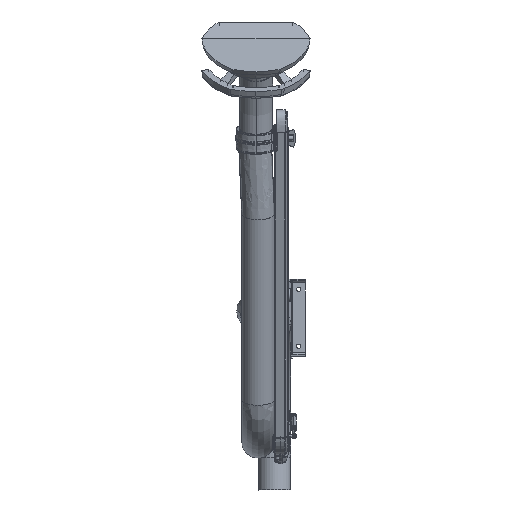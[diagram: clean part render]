
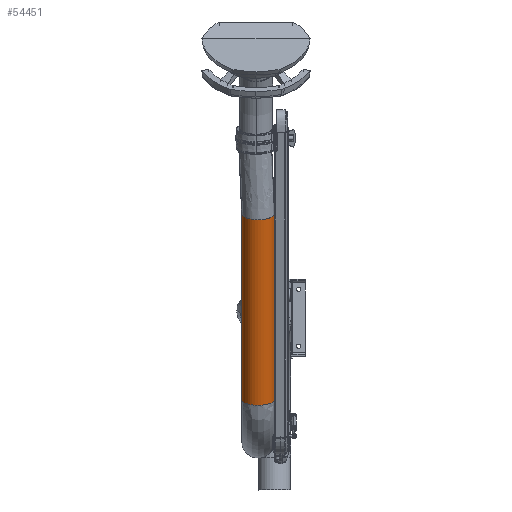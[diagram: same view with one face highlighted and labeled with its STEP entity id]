
A CAD part, front view. The second image highlights one B-rep face of the part: STEP entity #54451.
In plain terms, the highlighted free-form (B-spline) face has degree [3, 3] with [7, 6] control points.
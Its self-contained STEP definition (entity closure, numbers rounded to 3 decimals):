
#52660=CARTESIAN_POINT('',(-100.,0.,-275.));
#52661=CARTESIAN_POINT('',(-100.,0.,-341.667));
#52662=CARTESIAN_POINT('',(-100.,0.,-475.));
#52663=CARTESIAN_POINT('',(-100.,0.,-675.));
#52664=CARTESIAN_POINT('',(-100.,0.,-808.333));
#52665=CARTESIAN_POINT('',(-100.,0.,-875.));
#52670=CARTESIAN_POINT('',(-50.,0.,-275.));
#52671=DIRECTION('',(0.,0.,-1.));
#52672=DIRECTION('',(1.,0.,0.));
#52673=AXIS2_PLACEMENT_3D('',#52670,#52671,#52672);
#52678=CARTESIAN_POINT('',(0.,0.,-275.));
#52679=CARTESIAN_POINT('',(0.,0.,-341.667));
#52680=CARTESIAN_POINT('',(0.,0.,-475.));
#52681=CARTESIAN_POINT('',(0.,0.,-675.));
#52682=CARTESIAN_POINT('',(0.,0.,-808.333));
#52683=CARTESIAN_POINT('',(0.,0.,-875.));
#52688=CARTESIAN_POINT('',(-50.,0.,-875.));
#52689=DIRECTION('',(0.,0.,-1.));
#52690=DIRECTION('',(1.,0.,0.));
#52691=AXIS2_PLACEMENT_3D('',#52688,#52689,#52690);
#54102=CARTESIAN_POINT('',(0.,0.,-275.));
#54103=CARTESIAN_POINT('',(-100.,0.,-275.));
#54104=VERTEX_POINT('',#54102);
#54105=VERTEX_POINT('',#54103);
#54110=CARTESIAN_POINT('',(0.,0.,-875.));
#54111=CARTESIAN_POINT('',(-100.,0.,-875.));
#54112=VERTEX_POINT('',#54110);
#54113=VERTEX_POINT('',#54111);
#54401=CARTESIAN_POINT('',(-0.099,3.14,-263.));
#54402=CARTESIAN_POINT('',(-0.099,3.14,-267.));
#54403=CARTESIAN_POINT('',(-0.099,3.14,-471.));
#54404=CARTESIAN_POINT('',(-0.099,3.14,-679.));
#54405=CARTESIAN_POINT('',(-0.099,3.14,-883.));
#54406=CARTESIAN_POINT('',(-0.099,3.14,-887.));
#54407=CARTESIAN_POINT('',(1.833,-27.57,-263.));
#54408=CARTESIAN_POINT('',(1.833,-27.57,-267.));
#54409=CARTESIAN_POINT('',(1.833,-27.57,-471.));
#54410=CARTESIAN_POINT('',(1.833,-27.57,-679.));
#54411=CARTESIAN_POINT('',(1.833,-27.57,-883.));
#54412=CARTESIAN_POINT('',(1.833,-27.57,-887.));
#54413=CARTESIAN_POINT('',(-19.23,-50.,-263.));
#54414=CARTESIAN_POINT('',(-19.23,-50.,-267.));
#54415=CARTESIAN_POINT('',(-19.23,-50.,-471.));
#54416=CARTESIAN_POINT('',(-19.23,-50.,-679.));
#54417=CARTESIAN_POINT('',(-19.23,-50.,-883.));
#54418=CARTESIAN_POINT('',(-19.23,-50.,-887.));
#54419=CARTESIAN_POINT('',(-50.,-50.,-263.));
#54420=CARTESIAN_POINT('',(-50.,-50.,-267.));
#54421=CARTESIAN_POINT('',(-50.,-50.,-471.));
#54422=CARTESIAN_POINT('',(-50.,-50.,-679.));
#54423=CARTESIAN_POINT('',(-50.,-50.,-883.));
#54424=CARTESIAN_POINT('',(-50.,-50.,-887.));
#54425=CARTESIAN_POINT('',(-80.77,-50.,-263.));
#54426=CARTESIAN_POINT('',(-80.77,-50.,-267.));
#54427=CARTESIAN_POINT('',(-80.77,-50.,-471.));
#54428=CARTESIAN_POINT('',(-80.77,-50.,-679.));
#54429=CARTESIAN_POINT('',(-80.77,-50.,-883.));
#54430=CARTESIAN_POINT('',(-80.77,-50.,-887.));
#54431=CARTESIAN_POINT('',(-101.833,-27.57,-263.));
#54432=CARTESIAN_POINT('',(-101.833,-27.57,-267.));
#54433=CARTESIAN_POINT('',(-101.833,-27.57,-471.));
#54434=CARTESIAN_POINT('',(-101.833,-27.57,-679.));
#54435=CARTESIAN_POINT('',(-101.833,-27.57,-883.));
#54436=CARTESIAN_POINT('',(-101.833,-27.57,-887.));
#54437=CARTESIAN_POINT('',(-99.901,3.14,-263.));
#54438=CARTESIAN_POINT('',(-99.901,3.14,-267.));
#54439=CARTESIAN_POINT('',(-99.901,3.14,-471.));
#54440=CARTESIAN_POINT('',(-99.901,3.14,-679.));
#54441=CARTESIAN_POINT('',(-99.901,3.14,-883.));
#54442=CARTESIAN_POINT('',(-99.901,3.14,-887.));
#54443=(BOUNDED_SURFACE()B_SPLINE_SURFACE(3,3,((#54401,#54402,#54403,#54404,
#54405,#54406),(#54407,#54408,#54409,#54410,#54411,#54412),(#54413,#54414,
#54415,#54416,#54417,#54418),(#54419,#54420,#54421,#54422,#54423,#54424),
(#54425,#54426,#54427,#54428,#54429,#54430),(#54431,#54432,#54433,#54434,#54435,
#54436),(#54437,#54438,#54439,#54440,#54441,#54442)),.UNSPECIFIED.,.F.,.F.,.F.)B_SPLINE_SURFACE_WITH_KNOTS((4,3,4),(4,1,1,4),(0.,1.,2.),(-0.02,0.,1.,
1.02),.UNSPECIFIED.)GEOMETRIC_REPRESENTATION_ITEM()RATIONAL_B_SPLINE_SURFACE((
(1.187,1.187,1.187,1.187,
1.187,1.187),(0.938,0.938,
0.938,0.938,0.938,0.938),(
0.938,0.938,0.938,0.938,
0.938,0.938),(1.187,1.187,
1.187,1.187,1.187,1.187),(
0.938,0.938,0.938,0.938,
0.938,0.938),(0.938,0.938,
0.938,0.938,0.938,0.938),(
1.187,1.187,1.187,1.187,
1.187,1.187)))REPRESENTATION_ITEM('')SURFACE());
#54444=ORIENTED_EDGE('',*,*,#54255,.F.);
#54445=ORIENTED_EDGE('',*,*,#54389,.T.);
#54447=ORIENTED_EDGE('',*,*,#54446,.T.);
#54448=ORIENTED_EDGE('',*,*,#54385,.F.);
#54449=EDGE_LOOP('',(#54444,#54445,#54447,#54448));
#54450=FACE_OUTER_BOUND('',#54449,.F.);
#52666=B_SPLINE_CURVE_WITH_KNOTS('',3,(#52660,#52661,#52662,#52663,#52664,
#52665),.UNSPECIFIED.,.F.,.F.,(4,1,1,4),(0.,0.333,
0.667,1.),.UNSPECIFIED.);
#52674=CIRCLE('',#52673,50.);
#52684=B_SPLINE_CURVE_WITH_KNOTS('',3,(#52678,#52679,#52680,#52681,#52682,
#52683),.UNSPECIFIED.,.F.,.F.,(4,1,1,4),(0.,0.333,
0.667,1.),.UNSPECIFIED.);
#52692=CIRCLE('',#52691,50.);
#54255=EDGE_CURVE('',#54104,#54105,#52674,.T.);
#54385=EDGE_CURVE('',#54105,#54113,#52666,.T.);
#54389=EDGE_CURVE('',#54104,#54112,#52684,.T.);
#54446=EDGE_CURVE('',#54112,#54113,#52692,.T.);
#54451=ADVANCED_FACE('',(#54450),#54443,.T.);
